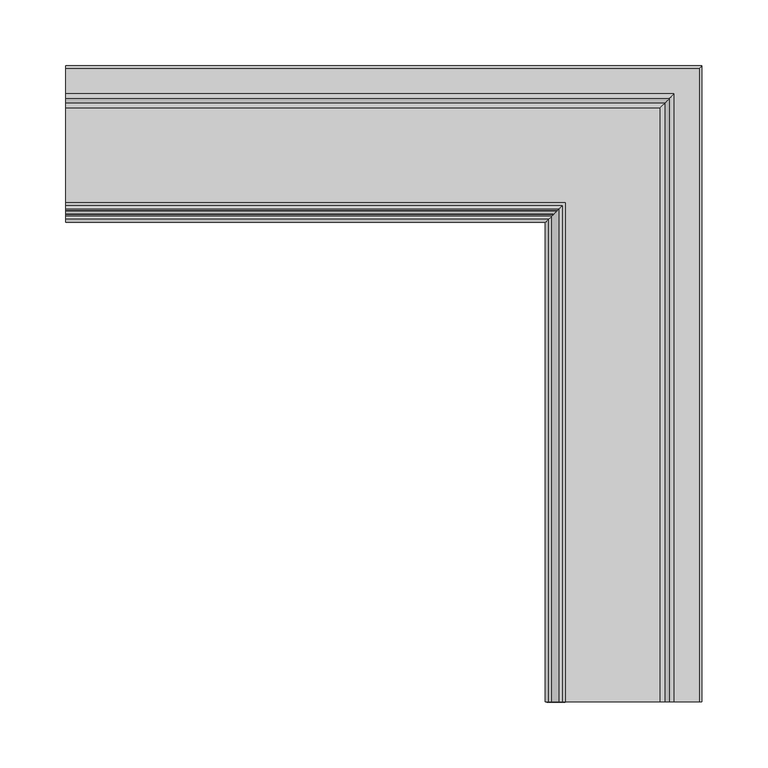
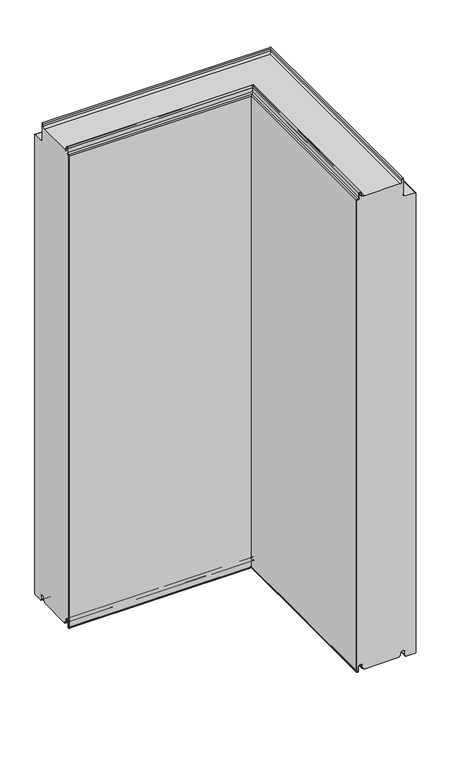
"""IFC4 building model written with IfcOpenShell, lengths in millimetres: plate geometry, Угловой модуль Fronttop : Угловой модуль Fronttop 120/1000."""

from ifc_helpers import new_model, si_unit, frame, origin, place, context, project, spatial, polyline, circle_curve, ellipse_curve, source, transform, mapped, element, save
from ifc_brep_helpers import plane_surface, cylinder_surface, revolved_surface, advanced_brep


def plate_0bb42676(model_context):
    return source(origin(), model_context, "Body", "AdvancedBrep", [
        advanced_brep(
        [(-234.5, 15.0, 3.0), (-234.5, 13.0, 3.0), (-234.5, 12.0, 4.0), (-234.5, 12.0, 8.0), (-234.5, 3.0, 8.0), (-234.5, 3.0, -0.5), (-234.5, 1.0, -0.5), (-234.5, 1.0, 995.0278643), (-234.5, 2.1111111, 996.0216723), (-234.5, 6.0, 999.5), (-234.5, 6.0, 1008.0), (-234.5, 9.0, 1008.0), (-234.5, 9.0, 1004.0), (-234.5, 13.0, 1000.0), (-234.5, 87.0, 1000.0), (-234.5, 91.0, 1004.0), (-234.5, 91.0, 1008.0), (-234.5, 94.0, 1008.0), (-234.5, 94.0, 975.0), (-234.5, 98.0, 971.0), (-234.5, 117.0, 971.0), (-234.5, 119.0, 969.0), (-234.5, 119.0, 0.0), (-234.5, 117.0, -2.0), (-234.5, 99.0, -2.0), (-234.5, 97.0, 0.0), (-234.5, 97.0, 8.0), (-234.5, 88.0, 8.0), (-234.5, 88.0, 4.0), (-234.5, 87.0, 3.0), (-234.5, 85.0, 3.0), (-234.5, 85.0, 0.0), (-234.5, 15.0, 0.0), (145.0, 15.0, 0.0), (145.0, 15.0, 3.0), (215.0, 85.0, 0.0), (215.0, -364.5, 0.0), (145.0, -364.5, 0.0), (215.0, 85.0, 3.0), (217.0, 87.0, 3.0), (217.0, -364.5, 3.0), (215.0, -364.5, 3.0), (218.0, 88.0, 4.0), (218.0, 88.0, 8.0), (227.0, 97.0, 8.0), (227.0, 97.0, 0.0), (229.0, 99.0, -2.0), (247.0, 117.0, -2.0), (247.0, -364.5, -2.0), (229.0, -364.5, -2.0), (249.0, 119.0, 0.0), (249.0, 119.0, 969.0), (247.0, 117.0, 971.0), (228.0, 98.0, 971.0), (228.0, -364.5, 971.0), (247.0, -364.5, 971.0), (224.0, 94.0, 975.0), (224.0, 94.0, 1008.0), (221.0, 91.0, 1008.0), (221.0, 91.0, 1004.0), (217.0, 87.0, 1000.0), (143.0, 13.0, 1000.0), (143.0, -364.5, 1000.0), (217.0, -364.5, 1000.0), (139.0, 9.0, 1004.0), (139.0, 9.0, 1008.0), (136.0, 6.0, 1008.0), (136.0, 6.0, 999.5), (132.1111111, 2.1111111, 996.021672), (131.0, 1.0, 995.0278643), (131.0, 1.0, -0.5), (133.0, 3.0, -0.5), (133.0, 3.0, 8.0), (142.0, 12.0, 8.0), (142.0, 12.0, 4.0), (143.0, 13.0, 3.0), (145.0, -364.5, 3.0), (143.0, -364.5, 3.0), (218.0, -364.5, 4.0), (218.0, -364.5, 8.0), (227.0, -364.5, 8.0), (227.0, -364.5, 0.0), (249.0, -364.5, 0.0), (249.0, -364.5, 969.0), (224.0, -364.5, 975.0), (224.0, -364.5, 1008.0), (221.0, -364.5, 1008.0), (221.0, -364.5, 1004.0), (139.0, -364.5, 1004.0), (139.0, -364.5, 1008.0), (136.0, -364.5, 1008.0), (136.0, -364.5, 999.5), (132.1111111, -364.5, 996.021672), (131.0, -364.5, 995.0278643), (131.0, -364.5, -0.5), (133.0, -364.5, -0.5), (133.0, -364.5, 8.0), (142.0, -364.5, 8.0), (142.0, -364.5, 4.0)],
        [
            (0, 1),
            (1, 2, circle_curve(frame((-234.5, 13.0, 4.0), z_axis=(-1.0, 0.0, 0.0), x_axis=(0.0, -1.0, 0.0)), 1.0)),
            (2, 3),
            (3, 4, circle_curve(frame((-234.5, 7.5, 8.0), z_axis=(1.0, 0.0, 0.0), x_axis=(0.0, -1.0, 0.0)), 4.5)),
            (4, 5),
            (5, 6, circle_curve(frame((-234.5, 2.0, -0.5), z_axis=(-1.0, 0.0, 0.0), x_axis=(0.0, -1.0, 0.0)), 1.0)),
            (6, 7),
            (7, 8, circle_curve(frame((-234.5, 2.0, 995.0278643), z_axis=(-1.0, 0.0, 0.0), x_axis=(0.0, -1.0, 0.0)), 1.0)),
            (8, 9, circle_curve(frame((-234.5, 2.5, 999.5), z_axis=(1.0, 0.0, 0.0), x_axis=(0.0, -1.0, 0.0)), 3.5)),
            (9, 10),
            (10, 11, circle_curve(frame((-234.5, 7.5, 1008.0), z_axis=(-1.0, 0.0, 0.0), x_axis=(0.0, -1.0, 0.0)), 1.5)),
            (11, 12),
            (12, 13, circle_curve(frame((-234.5, 13.0, 1004.0), z_axis=(1.0, 0.0, 0.0), x_axis=(0.0, -1.0, 0.0)), 4.0)),
            (13, 14),
            (14, 15, circle_curve(frame((-234.5, 87.0, 1004.0), z_axis=(1.0, 0.0, 0.0), x_axis=(0.0, -1.0, 0.0)), 4.0)),
            (15, 16),
            (16, 17, circle_curve(frame((-234.5, 92.5, 1008.0), z_axis=(-1.0, 0.0, 0.0), x_axis=(0.0, -1.0, 0.0)), 1.5)),
            (17, 18),
            (18, 19, circle_curve(frame((-234.5, 98.0, 975.0), z_axis=(1.0, 0.0, 0.0), x_axis=(0.0, -1.0, 0.0)), 4.0)),
            (19, 20),
            (20, 21, circle_curve(frame((-234.5, 117.0, 969.0), z_axis=(-1.0, 0.0, 0.0), x_axis=(0.0, -1.0, 0.0)), 2.0)),
            (21, 22),
            (22, 23, circle_curve(frame((-234.5, 117.0, 0.0), z_axis=(-1.0, 0.0, 0.0), x_axis=(0.0, -1.0, 0.0)), 2.0)),
            (23, 24),
            (24, 25, circle_curve(frame((-234.5, 99.0, 0.0), z_axis=(-1.0, 0.0, 0.0), x_axis=(0.0, -1.0, 0.0)), 2.0)),
            (25, 26),
            (26, 27, circle_curve(frame((-234.5, 92.5, 8.0), z_axis=(1.0, 0.0, 0.0), x_axis=(0.0, -1.0, 0.0)), 4.5)),
            (27, 28),
            (28, 29, circle_curve(frame((-234.5, 87.0, 4.0), z_axis=(-1.0, 0.0, 0.0), x_axis=(0.0, -1.0, 0.0)), 1.0)),
            (29, 30),
            (30, 31),
            (31, 32),
            (32, 0),
            (32, 33),
            (33, 34),
            (34, 0),
            (31, 35),
            (35, 36),
            (36, 37),
            (37, 33),
            (30, 38),
            (38, 35),
            (29, 39),
            (39, 40),
            (40, 41),
            (41, 38),
            (28, 42),
            (42, 39, ellipse_curve(frame((217.0, 87.0, 4.0), z_axis=(-0.7071067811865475, 0.7071067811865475, 0.0), x_axis=(-0.7071067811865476, -0.7071067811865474, 0.0)), 1.4142136, 1.0)),
            (27, 43),
            (43, 42),
            (26, 44),
            (44, 43, ellipse_curve(frame((222.5, 92.5, 8.0), z_axis=(0.7071067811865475, -0.7071067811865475, 0.0), x_axis=(0.7071067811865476, 0.7071067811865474, 0.0)), 6.363961, 4.5)),
            (25, 45),
            (45, 44),
            (24, 46),
            (46, 45, ellipse_curve(frame((229.0, 99.0, 0.0), z_axis=(-0.7071067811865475, 0.7071067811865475, 0.0), x_axis=(-0.7071067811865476, -0.7071067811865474, 0.0)), 2.8284271, 2.0)),
            (23, 47),
            (47, 48),
            (48, 49),
            (49, 46),
            (22, 50),
            (50, 47, ellipse_curve(frame((247.0, 117.0, 0.0), z_axis=(-0.7071067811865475, 0.7071067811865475, 0.0), x_axis=(-0.7071067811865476, -0.7071067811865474, 0.0)), 2.8284271, 2.0)),
            (21, 51),
            (51, 50),
            (20, 52),
            (52, 51, ellipse_curve(frame((247.0, 117.0, 969.0), z_axis=(-0.7071067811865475, 0.7071067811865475, 0.0), x_axis=(-0.7071067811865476, -0.7071067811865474, 0.0)), 2.8284271, 2.0)),
            (19, 53),
            (53, 54),
            (54, 55),
            (55, 52),
            (18, 56),
            (56, 53, ellipse_curve(frame((228.0, 98.0, 975.0), z_axis=(0.7071067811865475, -0.7071067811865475, 0.0), x_axis=(0.7071067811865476, 0.7071067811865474, 0.0)), 5.6568542, 4.0)),
            (17, 57),
            (57, 56),
            (16, 58),
            (58, 57, ellipse_curve(frame((222.5, 92.5, 1008.0), z_axis=(-0.7071067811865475, 0.7071067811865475, 0.0), x_axis=(-0.7071067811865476, -0.7071067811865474, 0.0)), 2.1213203, 1.5)),
            (15, 59),
            (59, 58),
            (14, 60),
            (60, 59, ellipse_curve(frame((217.0, 87.0, 1004.0), z_axis=(0.7071067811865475, -0.7071067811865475, 0.0), x_axis=(0.7071067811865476, 0.7071067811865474, 0.0)), 5.6568542, 4.0)),
            (13, 61),
            (61, 62),
            (62, 63),
            (63, 60),
            (12, 64),
            (64, 61, ellipse_curve(frame((143.0, 13.0, 1004.0), z_axis=(0.7071067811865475, -0.7071067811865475, 0.0), x_axis=(0.7071067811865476, 0.7071067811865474, 0.0)), 5.6568542, 4.0)),
            (11, 65),
            (65, 64),
            (10, 66),
            (66, 65, ellipse_curve(frame((137.5, 7.5, 1008.0), z_axis=(-0.7071067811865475, 0.7071067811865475, 0.0), x_axis=(-0.7071067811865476, -0.7071067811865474, 0.0)), 2.1213204, 1.5)),
            (9, 67),
            (67, 66),
            (8, 68),
            (68, 67, ellipse_curve(frame((132.5, 2.5, 999.5), z_axis=(0.7071067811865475, -0.7071067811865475, 0.0), x_axis=(0.7071067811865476, 0.7071067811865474, 0.0)), 4.9497475, 3.5)),
            (7, 69),
            (69, 68, ellipse_curve(frame((132.0, 2.0, 995.0278643), z_axis=(-0.7071067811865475, 0.7071067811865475, 0.0), x_axis=(-0.7071067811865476, -0.7071067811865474, 0.0)), 1.4142136, 1.0)),
            (6, 70),
            (70, 69),
            (5, 71),
            (71, 70, ellipse_curve(frame((132.0, 2.0, -0.5), z_axis=(-0.7071067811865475, 0.7071067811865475, 0.0), x_axis=(-0.7071067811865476, -0.7071067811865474, 0.0)), 1.4142136, 1.0)),
            (4, 72),
            (72, 71),
            (3, 73),
            (73, 72, ellipse_curve(frame((137.5, 7.5, 8.0), z_axis=(0.7071067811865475, -0.7071067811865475, 0.0), x_axis=(0.7071067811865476, 0.7071067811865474, 0.0)), 6.363961, 4.5)),
            (2, 74),
            (74, 73),
            (1, 75),
            (75, 74, ellipse_curve(frame((143.0, 13.0, 4.0), z_axis=(-0.7071067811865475, 0.7071067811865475, 0.0), x_axis=(-0.7071067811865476, -0.7071067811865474, 0.0)), 1.4142136, 1.0)),
            (34, 76),
            (76, 77),
            (77, 75),
            (76, 37),
            (36, 41),
            (40, 78, circle_curve(frame((217.0, -364.5, 4.0), z_axis=(0.0, -1.0, 0.0), x_axis=(-1.0, 0.0, 0.0)), 1.0)),
            (78, 79),
            (79, 80, circle_curve(frame((222.5, -364.5, 8.0), z_axis=(0.0, 1.0, 0.0), x_axis=(-1.0, 0.0, 0.0)), 4.5)),
            (80, 81),
            (81, 49, circle_curve(frame((229.0, -364.5, 0.0), z_axis=(0.0, -1.0, 0.0), x_axis=(-1.0, 0.0, 0.0)), 2.0)),
            (48, 82, circle_curve(frame((247.0, -364.5, 0.0), z_axis=(0.0, -1.0, 0.0), x_axis=(-1.0, 0.0, 0.0)), 2.0)),
            (82, 83),
            (83, 55, circle_curve(frame((247.0, -364.5, 969.0), z_axis=(0.0, -1.0, 0.0), x_axis=(-1.0, 0.0, 0.0)), 2.0)),
            (54, 84, circle_curve(frame((228.0, -364.5, 975.0), z_axis=(0.0, 1.0, 0.0), x_axis=(-1.0, 0.0, 0.0)), 4.0)),
            (84, 85),
            (85, 86, circle_curve(frame((222.5, -364.5, 1008.0), z_axis=(0.0, -1.0, 0.0), x_axis=(-1.0, 0.0, 0.0)), 1.5)),
            (86, 87),
            (87, 63, circle_curve(frame((217.0, -364.5, 1004.0), z_axis=(0.0, 1.0, 0.0), x_axis=(-1.0, 0.0, 0.0)), 4.0)),
            (62, 88, circle_curve(frame((143.0, -364.5, 1004.0), z_axis=(0.0, 1.0, 0.0), x_axis=(-1.0, 0.0, 0.0)), 4.0)),
            (88, 89),
            (89, 90, circle_curve(frame((137.5, -364.5, 1008.0), z_axis=(0.0, -1.0, 0.0), x_axis=(-1.0, 0.0, 0.0)), 1.5)),
            (90, 91),
            (91, 92, circle_curve(frame((132.5, -364.5, 999.5), z_axis=(0.0, 1.0, 0.0), x_axis=(-1.0, 0.0, 0.0)), 3.5)),
            (92, 93, circle_curve(frame((132.0, -364.5, 995.0278643), z_axis=(0.0, -1.0, 0.0), x_axis=(-1.0, 0.0, 0.0)), 1.0)),
            (93, 94),
            (94, 95, circle_curve(frame((132.0, -364.5, -0.5), z_axis=(0.0, -1.0, 0.0), x_axis=(-1.0, 0.0, 0.0)), 1.0)),
            (95, 96),
            (96, 97, circle_curve(frame((137.5, -364.5, 8.0), z_axis=(0.0, 1.0, 0.0), x_axis=(-1.0, 0.0, 0.0)), 4.5)),
            (97, 98),
            (98, 77, circle_curve(frame((143.0, -364.5, 4.0), z_axis=(0.0, -1.0, 0.0), x_axis=(-1.0, 0.0, 0.0)), 1.0)),
            (42, 78),
            (43, 79),
            (44, 80),
            (45, 81),
            (50, 82),
            (51, 83),
            (56, 84),
            (57, 85),
            (58, 86),
            (59, 87),
            (64, 88),
            (65, 89),
            (66, 90),
            (67, 91),
            (68, 92),
            (69, 93),
            (70, 94),
            (71, 95),
            (72, 96),
            (73, 97),
            (74, 98),
        ],
        [
            plane_surface(frame((-234.5, 0.0, 0.0), z_axis=(-1.0, 0.0, 0.0), x_axis=(0.0, 0.0, 1.0))),
            plane_surface(frame((-234.5, 15.0, 0.0), z_axis=(0.0, -1.0, 0.0), x_axis=(1.0, 0.0, 0.0))),
            plane_surface(frame((-234.5, 85.0, 0.0), z_axis=(0.0, 0.0, -1.0), x_axis=(1.0, 0.0, 0.0))),
            plane_surface(frame((-234.5, 85.0, 3.0), z_axis=(0.0, 1.0, 0.0), x_axis=(1.0, 0.0, 0.0))),
            plane_surface(frame((-234.5, 87.0, 3.0), z_axis=(0.0, 0.0, -1.0), x_axis=(1.0, 0.0, 0.0))),
            cylinder_surface(frame((-234.5, 87.0, 4.0), z_axis=(-1.0, 0.0, 0.0), x_axis=(0.0, -1.0, 0.0)), 1.0),
            plane_surface(frame((-234.5, 88.0, 8.0), z_axis=(0.0, 1.0, 0.0), x_axis=(1.0, 0.0, 0.0))),
            revolved_surface(polyline([(227.0, 88.0, 8.0), (-234.5, 88.0, 8.0)]), (-234.5, 92.5, 8.0), (1.0, 0.0, 0.0)),
            plane_surface(frame((-234.5, 97.0, 0.0), z_axis=(0.0, -1.0, 0.0), x_axis=(1.0, 0.0, 0.0))),
            cylinder_surface(frame((-234.5, 99.0, 0.0), z_axis=(-1.0, 0.0, 0.0), x_axis=(0.0, -1.0, 0.0)), 2.0),
            plane_surface(frame((-234.5, 117.0, -2.0), z_axis=(0.0, 0.0, -1.0), x_axis=(1.0, 0.0, 0.0))),
            cylinder_surface(frame((-234.5, 117.0, 0.0), z_axis=(-1.0, 0.0, 0.0), x_axis=(0.0, -1.0, 0.0)), 2.0),
            plane_surface(frame((-234.5, 119.0, 969.0), z_axis=(0.0, 1.0, 0.0), x_axis=(1.0, 0.0, 0.0))),
            cylinder_surface(frame((-234.5, 117.0, 969.0), z_axis=(-1.0, 0.0, 0.0), x_axis=(0.0, -1.0, 0.0)), 2.0),
            plane_surface(frame((-234.5, 98.0, 971.0), z_axis=(0.0, 0.0, 1.0), x_axis=(1.0, 0.0, 0.0))),
            revolved_surface(polyline([(231.9999999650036, 94.0, 975.0), (-234.5, 94.0, 975.0)]), (-234.5, 98.0, 975.0), (1.0, 0.0, 0.0)),
            plane_surface(frame((-234.5, 94.0, 1008.0), z_axis=(0.0, 1.0, 0.0), x_axis=(1.0, 0.0, 0.0))),
            cylinder_surface(frame((-234.5, 92.5, 1008.0), z_axis=(-1.0, 0.0, 0.0), x_axis=(0.0, -1.0, 0.0)), 1.5),
            plane_surface(frame((-234.5, 91.0, 1004.0), z_axis=(0.0, -1.0, 0.0), x_axis=(1.0, 0.0, 0.0))),
            revolved_surface(polyline([(221.0, 83.0, 1004.0), (-234.5, 83.0, 1004.0)]), (-234.5, 87.0, 1004.0), (1.0, 0.0, 0.0)),
            plane_surface(frame((-234.5, 13.0, 1000.0), z_axis=(0.0, 0.0, 1.0), x_axis=(1.0, 0.0, 0.0))),
            revolved_surface(polyline([(146.9999999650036, 9.0, 1004.0), (-234.5, 9.0, 1004.0)]), (-234.5, 13.0, 1004.0), (1.0, 0.0, 0.0)),
            plane_surface(frame((-234.5, 9.0, 1008.0), z_axis=(0.0, 1.0, 0.0), x_axis=(1.0, 0.0, 0.0))),
            cylinder_surface(frame((-234.5, 7.5, 1008.0), z_axis=(-1.0, 0.0, 0.0), x_axis=(0.0, -1.0, 0.0)), 1.5),
            plane_surface(frame((-234.5, 6.0, 999.5), z_axis=(0.0, -1.0, 0.0), x_axis=(1.0, 0.0, 0.0))),
            revolved_surface(polyline([(136.00000002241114, -1.0, 999.5), (-234.5, -1.0, 999.5)]), (-234.5, 2.5, 999.5), (1.0, 0.0, 0.0)),
            cylinder_surface(frame((-234.5, 2.0, 995.0278643), z_axis=(-1.0, 0.0, 0.0), x_axis=(0.0, -1.0, 0.0)), 1.0),
            plane_surface(frame((-234.5, 1.0, -0.5), z_axis=(0.0, -1.0, 0.0), x_axis=(1.0, 0.0, 0.0))),
            cylinder_surface(frame((-234.5, 2.0, -0.5), z_axis=(-1.0, 0.0, 0.0), x_axis=(0.0, -1.0, 0.0)), 1.0),
            plane_surface(frame((-234.5, 3.0, 8.0), z_axis=(0.0, 1.0, 0.0), x_axis=(1.0, 0.0, 0.0))),
            revolved_surface(polyline([(142.0, 3.0, 8.0), (-234.5, 3.0, 8.0)]), (-234.5, 7.5, 8.0), (1.0, 0.0, 0.0)),
            plane_surface(frame((-234.5, 12.0, 4.0), z_axis=(0.0, -1.0, 0.0), x_axis=(1.0, 0.0, 0.0))),
            cylinder_surface(frame((-234.5, 13.0, 4.0), z_axis=(-1.0, 0.0, 0.0), x_axis=(0.0, -1.0, 0.0)), 1.0),
            plane_surface(frame((-234.5, 15.0, 3.0), z_axis=(0.0, 0.0, -1.0), x_axis=(1.0, 0.0, 0.0))),
            plane_surface(frame((130.0, -364.5, 0.0), z_axis=(0.0, -1.0, 0.0), x_axis=(0.0, 0.0, 1.0))),
            plane_surface(frame((145.0, 15.0, 0.0), z_axis=(-1.0, 0.0, 0.0), x_axis=(0.0, -1.0, 0.0))),
            plane_surface(frame((215.0, 85.0, 3.0), z_axis=(1.0, 0.0, 0.0), x_axis=(0.0, -1.0, 0.0))),
            cylinder_surface(frame((217.0, 0.0, 4.0), z_axis=(0.0, 1.0, 0.0), x_axis=(-1.0, 0.0, 0.0)), 1.0),
            plane_surface(frame((218.0, 88.0, 8.0), z_axis=(1.0, 0.0, 0.0), x_axis=(0.0, -1.0, 0.0))),
            revolved_surface(polyline([(218.0, -364.5, 8.0), (218.0, 97.0, 8.0)]), (222.5, 0.0, 8.0), (0.0, -1.0, 0.0)),
            plane_surface(frame((227.0, 97.0, 0.0), z_axis=(-1.0, 0.0, 0.0), x_axis=(0.0, -1.0, 0.0))),
            cylinder_surface(frame((229.0, 0.0, 0.0), z_axis=(0.0, 1.0, 0.0), x_axis=(-1.0, 0.0, 0.0)), 2.0),
            cylinder_surface(frame((247.0, 0.0, 0.0), z_axis=(0.0, 1.0, 0.0), x_axis=(-1.0, 0.0, 0.0)), 2.0),
            plane_surface(frame((249.0, 119.0, 969.0), z_axis=(1.0, 0.0, 0.0), x_axis=(0.0, -1.0, 0.0))),
            cylinder_surface(frame((247.0, 0.0, 969.0), z_axis=(0.0, 1.0, 0.0), x_axis=(-1.0, 0.0, 0.0)), 2.0),
            revolved_surface(polyline([(224.0, -364.5, 975.0), (224.0, 101.9999999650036, 975.0)]), (228.0, 0.0, 975.0), (0.0, -1.0, 0.0)),
            plane_surface(frame((224.0, 94.0, 1008.0), z_axis=(1.0, 0.0, 0.0), x_axis=(0.0, -1.0, 0.0))),
            cylinder_surface(frame((222.5, 0.0, 1008.0), z_axis=(0.0, 1.0, 0.0), x_axis=(-1.0, 0.0, 0.0)), 1.5),
            plane_surface(frame((221.0, 91.0, 1004.0), z_axis=(-1.0, 0.0, 0.0), x_axis=(0.0, -1.0, 0.0))),
            revolved_surface(polyline([(213.0, -364.5, 1004.0), (213.0, 91.0, 1004.0)]), (217.0, 0.0, 1004.0), (0.0, -1.0, 0.0)),
            revolved_surface(polyline([(139.0, -364.5, 1004.0), (139.0, 16.999999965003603, 1004.0)]), (143.0, 0.0, 1004.0), (0.0, -1.0, 0.0)),
            plane_surface(frame((139.0, 9.0, 1008.0), z_axis=(1.0, 0.0, 0.0), x_axis=(0.0, -1.0, 0.0))),
            cylinder_surface(frame((137.5, 0.0, 1008.0), z_axis=(0.0, 1.0, 0.0), x_axis=(-1.0, 0.0, 0.0)), 1.5),
            plane_surface(frame((136.0, 6.0, 999.5), z_axis=(-1.0, 0.0, 0.0), x_axis=(0.0, -1.0, 0.0))),
            revolved_surface(polyline([(129.0, -364.5, 999.5), (129.0, 6.000000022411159, 999.5)]), (132.5, 0.0, 999.5), (0.0, -1.0, 0.0)),
            cylinder_surface(frame((132.0, 0.0, 995.0278643), z_axis=(0.0, 1.0, 0.0), x_axis=(-1.0, 0.0, 0.0)), 1.0),
            plane_surface(frame((131.0, 1.0, -0.5), z_axis=(-1.0, 0.0, 0.0), x_axis=(0.0, -1.0, 0.0))),
            cylinder_surface(frame((132.0, 0.0, -0.5), z_axis=(0.0, 1.0, 0.0), x_axis=(-1.0, 0.0, 0.0)), 1.0),
            plane_surface(frame((133.0, 3.0, 8.0), z_axis=(1.0, 0.0, 0.0), x_axis=(0.0, -1.0, 0.0))),
            revolved_surface(polyline([(133.0, -364.5, 8.0), (133.0, 12.0, 8.0)]), (137.5, 0.0, 8.0), (0.0, -1.0, 0.0)),
            plane_surface(frame((142.0, 12.0, 4.0), z_axis=(-1.0, 0.0, 0.0), x_axis=(0.0, -1.0, 0.0))),
            cylinder_surface(frame((143.0, 0.0, 4.0), z_axis=(0.0, 1.0, 0.0), x_axis=(-1.0, 0.0, 0.0)), 1.0),
        ],
        [
            (0, [[1, 2, 3, 4, 5, 6, 7, 8, 9, 10, 11, 12, 13, 14, 15, 16, 17, 18, 19, 20, 21, 22, 23, 24, 25, 26, 27, 28, 29, 30, 31, 32, 33]]),
            (1, [[-33, 34, 35, 36]]),
            (2, [[-32, 37, 38, 39, 40, -34]]),
            (3, [[-31, 41, 42, -37]]),
            (4, [[-30, 43, 44, 45, 46, -41]]),
            (5, [[-29, 47, 48, -43]]),
            (6, [[-28, 49, 50, -47]]),
            (7, [[-27, 51, 52, -49]]),
            (8, [[-26, 53, 54, -51]]),
            (9, [[-25, 55, 56, -53]]),
            (10, [[-24, 57, 58, 59, 60, -55]]),
            (11, [[-23, 61, 62, -57]]),
            (12, [[-22, 63, 64, -61]]),
            (13, [[-21, 65, 66, -63]]),
            (14, [[-20, 67, 68, 69, 70, -65]]),
            (15, [[-19, 71, 72, -67]]),
            (16, [[-18, 73, 74, -71]]),
            (17, [[-17, 75, 76, -73]]),
            (18, [[-16, 77, 78, -75]]),
            (19, [[-15, 79, 80, -77]]),
            (20, [[-14, 81, 82, 83, 84, -79]]),
            (21, [[-13, 85, 86, -81]]),
            (22, [[-12, 87, 88, -85]]),
            (23, [[-11, 89, 90, -87]]),
            (24, [[-10, 91, 92, -89]]),
            (25, [[-9, 93, 94, -91]]),
            (26, [[-8, 95, 96, -93]]),
            (27, [[-7, 97, 98, -95]]),
            (28, [[-6, 99, 100, -97]]),
            (29, [[-5, 101, 102, -99]]),
            (30, [[-4, 103, 104, -101]]),
            (31, [[-3, 105, 106, -103]]),
            (32, [[-2, 107, 108, -105]]),
            (33, [[-1, -36, 109, 110, 111, -107]]),
            (34, [[112, -39, 113, -45, 114, 115, 116, 117, 118, -59, 119, 120, 121, -69, 122, 123, 124, 125, 126, -83, 127, 128, 129, 130, 131, 132, 133, 134, 135, 136, 137, 138, -110]]),
            (35, [[-35, -40, -112, -109]]),
            (36, [[-42, -46, -113, -38]]),
            (37, [[-48, 139, -114, -44]]),
            (38, [[-50, 140, -115, -139]]),
            (39, [[-52, 141, -116, -140]]),
            (40, [[-54, 142, -117, -141]]),
            (41, [[-56, -60, -118, -142]]),
            (42, [[-62, 143, -119, -58]]),
            (43, [[-64, 144, -120, -143]]),
            (44, [[-66, -70, -121, -144]]),
            (45, [[-72, 145, -122, -68]]),
            (46, [[-74, 146, -123, -145]]),
            (47, [[-76, 147, -124, -146]]),
            (48, [[-78, 148, -125, -147]]),
            (49, [[-80, -84, -126, -148]]),
            (50, [[-86, 149, -127, -82]]),
            (51, [[-88, 150, -128, -149]]),
            (52, [[-90, 151, -129, -150]]),
            (53, [[-92, 152, -130, -151]]),
            (54, [[-94, 153, -131, -152]]),
            (55, [[-96, 154, -132, -153]]),
            (56, [[-98, 155, -133, -154]]),
            (57, [[-100, 156, -134, -155]]),
            (58, [[-102, 157, -135, -156]]),
            (59, [[-104, 158, -136, -157]]),
            (60, [[-106, 159, -137, -158]]),
            (61, [[-108, -111, -138, -159]]),
        ],
    ),
        advanced_brep(
        [(-234.5, 13.0, 1001.0), (-234.5, 15.0, 1001.0), (-234.5, 15.0, 1000.0), (-234.5, 13.0, 1000.0), (-234.5, 9.0, 1004.0), (-234.5, 9.0, 1008.0), (-234.5, 6.0, 1008.0), (-234.5, 6.0, 999.5), (-234.5, 2.1134897, 996.0214069), (-234.5, 1.0, 995.0), (-234.5, 1.0, -0.5), (-234.5, 3.0, -0.5), (-234.5, 3.0, 8.0), (-234.5, 12.0, 8.0), (-234.5, 12.0, 4.0), (-234.5, 13.0, 3.0), (-234.5, 15.0, 3.0), (-234.5, 15.0, 2.0), (-234.5, 13.0, 2.0), (-234.5, 11.0, 4.0), (-234.5, 11.0, 8.0), (-234.5, 4.0, 8.0), (-234.5, 4.0, -0.5), (-234.5, 0.0, -0.5), (-234.5, 0.0, 995.0), (-234.5, 2.220863, 996.9877675), (-234.5, 5.0, 999.5), (-234.5, 5.0, 1008.0), (-234.5, 10.0, 1008.0), (-234.5, 10.0, 1004.0), (143.0, 13.0, 1001.0), (143.0, -364.5, 1001.0), (145.0, -364.5, 1001.0), (145.0, 15.0, 1001.0), (145.0, 15.0, 1000.0), (145.0, -364.5, 1000.0), (143.0, -364.5, 1000.0), (143.0, 13.0, 1000.0), (139.0, 9.0, 1004.0), (139.0, 9.0, 1008.0), (136.0, 6.0, 1008.0), (136.0, 6.0, 999.5), (132.1134897, 2.1134897, 996.0214069), (131.0, 1.0, 995.0), (131.0, 1.0, -0.5), (133.0, 3.0, -0.5), (133.0, 3.0, 8.0), (142.0, 12.0, 8.0), (142.0, 12.0, 4.0), (143.0, 13.0, 3.0), (143.0, -364.5, 3.0), (145.0, -364.5, 3.0), (145.0, 15.0, 3.0), (145.0, 15.0, 2.0), (145.0, -364.5, 2.0), (143.0, -364.5, 2.0), (143.0, 13.0, 2.0), (141.0, 11.0, 4.0), (141.0, 11.0, 8.0), (134.0, 4.0, 8.0), (134.0, 4.0, -0.5), (130.0, 0.0, -0.5), (130.0, 0.0, 995.0), (132.220863, 2.220863, 996.9877675), (135.0, 5.0, 999.5), (135.0, 5.0, 1008.0), (140.0, 10.0, 1008.0), (140.0, 10.0, 1004.0), (140.0, -364.5, 1004.0), (140.0, -364.5, 1008.0), (135.0, -364.5, 1008.0), (135.0, -364.5, 999.5), (132.2239212, -364.5, 997.0152907), (130.0, -364.5, 995.0), (130.0, -364.5, -0.5), (134.0, -364.5, -0.5), (134.0, -364.5, 8.0), (141.0, -364.5, 8.0), (141.0, -364.5, 4.0), (142.0, -364.5, 4.0), (142.0, -364.5, 8.0), (133.0, -364.5, 8.0), (133.0, -364.5, -0.5), (131.0, -364.5, -0.5), (131.0, -364.5, 995.0), (132.1104315, -364.5, 995.9938837), (136.0, -364.5, 999.5), (136.0, -364.5, 1008.0), (139.0, -364.5, 1008.0), (139.0, -364.5, 1004.0)],
        [
            (0, 1),
            (1, 2),
            (2, 3),
            (3, 4, circle_curve(frame((-234.5, 13.0, 1004.0), z_axis=(-1.0, 0.0, 0.0), x_axis=(0.0, -1.0, 0.0)), 4.0)),
            (4, 5),
            (5, 6, circle_curve(frame((-234.5, 7.5, 1008.0), z_axis=(1.0, 0.0, 0.0), x_axis=(0.0, -1.0, 0.0)), 1.5)),
            (6, 7),
            (7, 8, circle_curve(frame((-234.5, 2.5, 999.5), z_axis=(-1.0, 0.0, 0.0), x_axis=(0.0, -1.0, 0.0)), 3.5)),
            (8, 9, circle_curve(frame((-234.5, 2.0, 995.0), z_axis=(1.0, 0.0, 0.0), x_axis=(0.0, -1.0, 0.0)), 1.0)),
            (9, 10),
            (10, 11, circle_curve(frame((-234.5, 2.0, -0.5), z_axis=(1.0, 0.0, 0.0), x_axis=(0.0, -1.0, 0.0)), 1.0)),
            (11, 12),
            (12, 13, circle_curve(frame((-234.5, 7.5, 8.0), z_axis=(-1.0, 0.0, 0.0), x_axis=(0.0, -1.0, 0.0)), 4.5)),
            (13, 14),
            (14, 15, circle_curve(frame((-234.5, 13.0, 4.0), z_axis=(1.0, 0.0, 0.0), x_axis=(0.0, -1.0, 0.0)), 1.0)),
            (15, 16),
            (16, 17),
            (17, 18),
            (18, 19, circle_curve(frame((-234.5, 13.0, 4.0), z_axis=(-1.0, 0.0, 0.0), x_axis=(0.0, -1.0, 0.0)), 2.0)),
            (19, 20),
            (20, 21, circle_curve(frame((-234.5, 7.5, 8.0), z_axis=(1.0, 0.0, 0.0), x_axis=(0.0, -1.0, 0.0)), 3.5)),
            (21, 22),
            (22, 23, circle_curve(frame((-234.5, 2.0, -0.5), z_axis=(-1.0, 0.0, 0.0), x_axis=(0.0, -1.0, 0.0)), 2.0)),
            (23, 24),
            (24, 25, circle_curve(frame((-234.5, 2.0, 995.0), z_axis=(-1.0, 0.0, 0.0), x_axis=(0.0, -1.0, 0.0)), 2.0)),
            (25, 26, circle_curve(frame((-234.5, 2.5, 999.5), z_axis=(1.0, 0.0, 0.0), x_axis=(0.0, -1.0, 0.0)), 2.5)),
            (26, 27),
            (27, 28, circle_curve(frame((-234.5, 7.5, 1008.0), z_axis=(-1.0, 0.0, 0.0), x_axis=(0.0, -1.0, 0.0)), 2.5)),
            (28, 29),
            (29, 0, circle_curve(frame((-234.5, 13.0, 1004.0), z_axis=(1.0, 0.0, 0.0), x_axis=(0.0, -1.0, 0.0)), 3.0)),
            (0, 30),
            (30, 31),
            (31, 32),
            (32, 33),
            (33, 1),
            (33, 34),
            (34, 2),
            (34, 35),
            (35, 36),
            (36, 37),
            (37, 3),
            (37, 38, ellipse_curve(frame((143.0, 13.0, 1004.0), z_axis=(-0.7071067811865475, 0.7071067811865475, 0.0), x_axis=(-0.7071067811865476, -0.7071067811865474, 0.0)), 5.6568542, 4.0)),
            (38, 4),
            (38, 39),
            (39, 5),
            (39, 40, ellipse_curve(frame((137.5, 7.5, 1008.0), z_axis=(0.7071067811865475, -0.7071067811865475, 0.0), x_axis=(0.7071067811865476, 0.7071067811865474, 0.0)), 2.1213204, 1.5)),
            (40, 6),
            (40, 41),
            (41, 7),
            (41, 42, ellipse_curve(frame((132.5, 2.5, 999.5), z_axis=(-0.7071067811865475, 0.7071067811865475, 0.0), x_axis=(-0.7071067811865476, -0.7071067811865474, 0.0)), 4.9497475, 3.5)),
            (42, 8),
            (42, 43, ellipse_curve(frame((132.0, 2.0, 995.0), z_axis=(0.7071067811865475, -0.7071067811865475, 0.0), x_axis=(0.7071067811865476, 0.7071067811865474, 0.0)), 1.4142136, 1.0)),
            (43, 9),
            (43, 44),
            (44, 10),
            (44, 45, ellipse_curve(frame((132.0, 2.0, -0.5), z_axis=(0.7071067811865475, -0.7071067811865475, 0.0), x_axis=(0.7071067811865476, 0.7071067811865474, 0.0)), 1.4142136, 1.0)),
            (45, 11),
            (45, 46),
            (46, 12),
            (46, 47, ellipse_curve(frame((137.5, 7.5, 8.0), z_axis=(-0.7071067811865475, 0.7071067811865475, 0.0), x_axis=(-0.7071067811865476, -0.7071067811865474, 0.0)), 6.363961, 4.5)),
            (47, 13),
            (47, 48),
            (48, 14),
            (48, 49, ellipse_curve(frame((143.0, 13.0, 4.0), z_axis=(0.7071067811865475, -0.7071067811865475, 0.0), x_axis=(0.7071067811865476, 0.7071067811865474, 0.0)), 1.4142136, 1.0)),
            (49, 15),
            (49, 50),
            (50, 51),
            (51, 52),
            (52, 16),
            (52, 53),
            (53, 17),
            (53, 54),
            (54, 55),
            (55, 56),
            (56, 18),
            (56, 57, ellipse_curve(frame((143.0, 13.0, 4.0), z_axis=(-0.7071067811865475, 0.7071067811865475, 0.0), x_axis=(-0.7071067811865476, -0.7071067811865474, 0.0)), 2.8284271, 2.0)),
            (57, 19),
            (57, 58),
            (58, 20),
            (58, 59, ellipse_curve(frame((137.5, 7.5, 8.0), z_axis=(0.7071067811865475, -0.7071067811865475, 0.0), x_axis=(0.7071067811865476, 0.7071067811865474, 0.0)), 4.9497475, 3.5)),
            (59, 21),
            (59, 60),
            (60, 22),
            (60, 61, ellipse_curve(frame((132.0, 2.0, -0.5), z_axis=(-0.7071067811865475, 0.7071067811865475, 0.0), x_axis=(-0.7071067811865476, -0.7071067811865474, 0.0)), 2.8284271, 2.0)),
            (61, 23),
            (61, 62),
            (62, 24),
            (62, 63, ellipse_curve(frame((132.0, 2.0, 995.0), z_axis=(-0.7071067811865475, 0.7071067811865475, 0.0), x_axis=(-0.7071067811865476, -0.7071067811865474, 0.0)), 2.8284271, 2.0)),
            (63, 25),
            (63, 64, ellipse_curve(frame((132.5, 2.5, 999.5), z_axis=(0.7071067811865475, -0.7071067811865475, 0.0), x_axis=(0.7071067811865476, 0.7071067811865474, 0.0)), 3.5355339, 2.5)),
            (64, 26),
            (64, 65),
            (65, 27),
            (65, 66, ellipse_curve(frame((137.5, 7.5, 1008.0), z_axis=(-0.7071067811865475, 0.7071067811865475, 0.0), x_axis=(-0.7071067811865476, -0.7071067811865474, 0.0)), 3.5355339, 2.5)),
            (66, 28),
            (66, 67),
            (67, 29),
            (67, 30, ellipse_curve(frame((143.0, 13.0, 1004.0), z_axis=(0.7071067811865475, -0.7071067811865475, 0.0), x_axis=(0.7071067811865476, 0.7071067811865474, 0.0)), 4.2426407, 3.0)),
            (31, 68, circle_curve(frame((143.0, -364.5, 1004.0), z_axis=(0.0, 1.0, 0.0), x_axis=(-1.0, 0.0, 0.0)), 3.0)),
            (68, 69),
            (69, 70, circle_curve(frame((137.5, -364.5, 1008.0), z_axis=(0.0, -1.0, 0.0), x_axis=(-1.0, 0.0, 0.0)), 2.5)),
            (70, 71),
            (71, 72, circle_curve(frame((132.5, -364.5, 999.5), z_axis=(0.0, 1.0, 0.0), x_axis=(-1.0, 0.0, 0.0)), 2.5)),
            (72, 73, circle_curve(frame((132.0, -364.5, 995.0), z_axis=(0.0, -1.0, 0.0), x_axis=(-1.0, 0.0, 0.0)), 2.0)),
            (73, 74),
            (74, 75, circle_curve(frame((132.0, -364.5, -0.5), z_axis=(0.0, -1.0, 0.0), x_axis=(-1.0, 0.0, 0.0)), 2.0)),
            (75, 76),
            (76, 77, circle_curve(frame((137.5, -364.5, 8.0), z_axis=(0.0, 1.0, 0.0), x_axis=(-1.0, 0.0, 0.0)), 3.5)),
            (77, 78),
            (78, 55, circle_curve(frame((143.0, -364.5, 4.0), z_axis=(0.0, -1.0, 0.0), x_axis=(-1.0, 0.0, 0.0)), 2.0)),
            (54, 51),
            (50, 79, circle_curve(frame((143.0, -364.5, 4.0), z_axis=(0.0, 1.0, 0.0), x_axis=(-1.0, 0.0, 0.0)), 1.0)),
            (79, 80),
            (80, 81, circle_curve(frame((137.5, -364.5, 8.0), z_axis=(0.0, -1.0, 0.0), x_axis=(-1.0, 0.0, 0.0)), 4.5)),
            (81, 82),
            (82, 83, circle_curve(frame((132.0, -364.5, -0.5), z_axis=(0.0, 1.0, 0.0), x_axis=(-1.0, 0.0, 0.0)), 1.0)),
            (83, 84),
            (84, 85, circle_curve(frame((132.0, -364.5, 995.0), z_axis=(0.0, 1.0, 0.0), x_axis=(-1.0, 0.0, 0.0)), 1.0)),
            (85, 86, circle_curve(frame((132.5, -364.5, 999.5), z_axis=(0.0, -1.0, 0.0), x_axis=(-1.0, 0.0, 0.0)), 3.5)),
            (86, 87),
            (87, 88, circle_curve(frame((137.5, -364.5, 1008.0), z_axis=(0.0, 1.0, 0.0), x_axis=(-1.0, 0.0, 0.0)), 1.5)),
            (88, 89),
            (89, 36, circle_curve(frame((143.0, -364.5, 1004.0), z_axis=(0.0, -1.0, 0.0), x_axis=(-1.0, 0.0, 0.0)), 4.0)),
            (35, 32),
            (89, 38),
            (88, 39),
            (87, 40),
            (86, 41),
            (85, 42),
            (84, 43),
            (83, 44),
            (82, 45),
            (81, 46),
            (80, 47),
            (79, 48),
            (78, 57),
            (77, 58),
            (76, 59),
            (75, 60),
            (74, 61),
            (73, 62),
            (72, 63),
            (71, 64),
            (70, 65),
            (69, 66),
            (68, 67),
        ],
        [
            plane_surface(frame((-234.5, 0.0, 0.0), z_axis=(-1.0, 0.0, 0.0), x_axis=(0.0, 0.0, 1.0))),
            plane_surface(frame((-234.5, 13.0, 1001.0), z_axis=(0.0, 0.0, 1.0), x_axis=(1.0, 0.0, 0.0))),
            plane_surface(frame((-234.5, 15.0, 1001.0), z_axis=(0.0, 1.0, 0.0), x_axis=(1.0, 0.0, 0.0))),
            plane_surface(frame((-234.5, 15.0, 1000.0), z_axis=(0.0, 0.0, -1.0), x_axis=(1.0, 0.0, 0.0))),
            cylinder_surface(frame((-234.5, 13.0, 1004.0), z_axis=(-1.0, 0.0, 0.0), x_axis=(0.0, -1.0, 0.0)), 4.0),
            plane_surface(frame((-234.5, 9.0, 1004.0), z_axis=(0.0, -1.0, 0.0), x_axis=(1.0, 0.0, 0.0))),
            revolved_surface(polyline([(139.00000003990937, 6.0, 1008.0), (-234.5, 6.0, 1008.0)]), (-234.5, 7.5, 1008.0), (1.0, 0.0, 0.0)),
            plane_surface(frame((-234.5, 6.0, 1008.0), z_axis=(0.0, 1.0, 0.0), x_axis=(1.0, 0.0, 0.0))),
            cylinder_surface(frame((-234.5, 2.5, 999.5), z_axis=(-1.0, 0.0, 0.0), x_axis=(0.0, -1.0, 0.0)), 3.5),
            revolved_surface(polyline([(133.00000002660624, 1.0, 995.0), (-234.5, 1.0, 995.0)]), (-234.5, 2.0, 995.0), (1.0, 0.0, 0.0)),
            plane_surface(frame((-234.5, 1.0, 995.0), z_axis=(0.0, 1.0, 0.0), x_axis=(1.0, 0.0, 0.0))),
            revolved_surface(polyline([(133.00000002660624, 1.0, -0.5), (-234.5, 1.0, -0.5)]), (-234.5, 2.0, -0.5), (1.0, 0.0, 0.0)),
            plane_surface(frame((-234.5, 3.0, -0.5), z_axis=(0.0, -1.0, 0.0), x_axis=(1.0, 0.0, 0.0))),
            cylinder_surface(frame((-234.5, 7.5, 8.0), z_axis=(-1.0, 0.0, 0.0), x_axis=(0.0, -1.0, 0.0)), 4.5),
            plane_surface(frame((-234.5, 12.0, 8.0), z_axis=(0.0, 1.0, 0.0), x_axis=(1.0, 0.0, 0.0))),
            revolved_surface(polyline([(144.00000002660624, 12.0, 4.0), (-234.5, 12.0, 4.0)]), (-234.5, 13.0, 4.0), (1.0, 0.0, 0.0)),
            plane_surface(frame((-234.5, 13.0, 3.0), z_axis=(0.0, 0.0, 1.0), x_axis=(1.0, 0.0, 0.0))),
            plane_surface(frame((-234.5, 15.0, 3.0), z_axis=(0.0, 1.0, 0.0), x_axis=(1.0, 0.0, 0.0))),
            plane_surface(frame((-234.5, 15.0, 2.0), z_axis=(0.0, 0.0, -1.0), x_axis=(1.0, 0.0, 0.0))),
            cylinder_surface(frame((-234.5, 13.0, 4.0), z_axis=(-1.0, 0.0, 0.0), x_axis=(0.0, -1.0, 0.0)), 2.0),
            plane_surface(frame((-234.5, 11.0, 4.0), z_axis=(0.0, -1.0, 0.0), x_axis=(1.0, 0.0, 0.0))),
            revolved_surface(polyline([(141.00000002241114, 4.0, 8.0), (-234.5, 4.0, 8.0)]), (-234.5, 7.5, 8.0), (1.0, 0.0, 0.0)),
            plane_surface(frame((-234.5, 4.0, 8.0), z_axis=(0.0, 1.0, 0.0), x_axis=(1.0, 0.0, 0.0))),
            cylinder_surface(frame((-234.5, 2.0, -0.5), z_axis=(-1.0, 0.0, 0.0), x_axis=(0.0, -1.0, 0.0)), 2.0),
            plane_surface(frame((-234.5, 0.0, -0.5), z_axis=(0.0, -1.0, 0.0), x_axis=(1.0, 0.0, 0.0))),
            cylinder_surface(frame((-234.5, 2.0, 995.0), z_axis=(-1.0, 0.0, 0.0), x_axis=(0.0, -1.0, 0.0)), 2.0),
            revolved_surface(polyline([(135.0, 0.0, 999.5), (-234.5, 0.0, 999.5)]), (-234.5, 2.5, 999.5), (1.0, 0.0, 0.0)),
            plane_surface(frame((-234.5, 5.0, 999.5), z_axis=(0.0, -1.0, 0.0), x_axis=(1.0, 0.0, 0.0))),
            cylinder_surface(frame((-234.5, 7.5, 1008.0), z_axis=(-1.0, 0.0, 0.0), x_axis=(0.0, -1.0, 0.0)), 2.5),
            plane_surface(frame((-234.5, 10.0, 1008.0), z_axis=(0.0, 1.0, 0.0), x_axis=(1.0, 0.0, 0.0))),
            revolved_surface(polyline([(146.00000000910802, 10.0, 1004.0), (-234.5, 10.0, 1004.0)]), (-234.5, 13.0, 1004.0), (1.0, 0.0, 0.0)),
            plane_surface(frame((130.0, -364.5, 0.0), z_axis=(0.0, -1.0, 0.0), x_axis=(0.0, 0.0, 1.0))),
            plane_surface(frame((145.0, 15.0, 1001.0), z_axis=(1.0, 0.0, 0.0), x_axis=(0.0, -1.0, 0.0))),
            cylinder_surface(frame((143.0, 0.0, 1004.0), z_axis=(0.0, 1.0, 0.0), x_axis=(-1.0, 0.0, 0.0)), 4.0),
            plane_surface(frame((139.0, 9.0, 1004.0), z_axis=(-1.0, 0.0, 0.0), x_axis=(0.0, -1.0, 0.0))),
            revolved_surface(polyline([(136.0, -364.5, 1008.0), (136.0, 9.00000003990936, 1008.0)]), (137.5, 0.0, 1008.0), (0.0, -1.0, 0.0)),
            plane_surface(frame((136.0, 6.0, 1008.0), z_axis=(1.0, 0.0, 0.0), x_axis=(0.0, -1.0, 0.0))),
            cylinder_surface(frame((132.5, 0.0, 999.5), z_axis=(0.0, 1.0, 0.0), x_axis=(-1.0, 0.0, 0.0)), 3.5),
            revolved_surface(polyline([(131.0, -364.5, 995.0), (131.0, 3.0000000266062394, 995.0)]), (132.0, 0.0, 995.0), (0.0, -1.0, 0.0)),
            plane_surface(frame((131.0, 1.0, 995.0), z_axis=(1.0, 0.0, 0.0), x_axis=(0.0, -1.0, 0.0))),
            revolved_surface(polyline([(131.0, -364.5, -0.5), (131.0, 3.0000000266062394, -0.5)]), (132.0, 0.0, -0.5), (0.0, -1.0, 0.0)),
            plane_surface(frame((133.0, 3.0, -0.5), z_axis=(-1.0, 0.0, 0.0), x_axis=(0.0, -1.0, 0.0))),
            cylinder_surface(frame((137.5, 0.0, 8.0), z_axis=(0.0, 1.0, 0.0), x_axis=(-1.0, 0.0, 0.0)), 4.5),
            plane_surface(frame((142.0, 12.0, 8.0), z_axis=(1.0, 0.0, 0.0), x_axis=(0.0, -1.0, 0.0))),
            revolved_surface(polyline([(142.0, -364.5, 4.0), (142.0, 14.000000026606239, 4.0)]), (143.0, 0.0, 4.0), (0.0, -1.0, 0.0)),
            plane_surface(frame((145.0, 15.0, 3.0), z_axis=(1.0, 0.0, 0.0), x_axis=(0.0, -1.0, 0.0))),
            cylinder_surface(frame((143.0, 0.0, 4.0), z_axis=(0.0, 1.0, 0.0), x_axis=(-1.0, 0.0, 0.0)), 2.0),
            plane_surface(frame((141.0, 11.0, 4.0), z_axis=(-1.0, 0.0, 0.0), x_axis=(0.0, -1.0, 0.0))),
            revolved_surface(polyline([(134.0, -364.5, 8.0), (134.0, 11.00000002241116, 8.0)]), (137.5, 0.0, 8.0), (0.0, -1.0, 0.0)),
            plane_surface(frame((134.0, 4.0, 8.0), z_axis=(1.0, 0.0, 0.0), x_axis=(0.0, -1.0, 0.0))),
            cylinder_surface(frame((132.0, 0.0, -0.5), z_axis=(0.0, 1.0, 0.0), x_axis=(-1.0, 0.0, 0.0)), 2.0),
            plane_surface(frame((130.0, 0.0, -0.5), z_axis=(-1.0, 0.0, 0.0), x_axis=(0.0, -1.0, 0.0))),
            cylinder_surface(frame((132.0, 0.0, 995.0), z_axis=(0.0, 1.0, 0.0), x_axis=(-1.0, 0.0, 0.0)), 2.0),
            revolved_surface(polyline([(130.0, -364.5, 999.5), (130.0, 5.0, 999.5)]), (132.5, 0.0, 999.5), (0.0, -1.0, 0.0)),
            plane_surface(frame((135.0, 5.0, 999.5), z_axis=(-1.0, 0.0, 0.0), x_axis=(0.0, -1.0, 0.0))),
            cylinder_surface(frame((137.5, 0.0, 1008.0), z_axis=(0.0, 1.0, 0.0), x_axis=(-1.0, 0.0, 0.0)), 2.5),
            plane_surface(frame((140.0, 10.0, 1008.0), z_axis=(1.0, 0.0, 0.0), x_axis=(0.0, -1.0, 0.0))),
            revolved_surface(polyline([(140.0, -364.5, 1004.0), (140.0, 16.00000000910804, 1004.0)]), (143.0, 0.0, 1004.0), (0.0, -1.0, 0.0)),
        ],
        [
            (0, [[1, 2, 3, 4, 5, 6, 7, 8, 9, 10, 11, 12, 13, 14, 15, 16, 17, 18, 19, 20, 21, 22, 23, 24, 25, 26, 27, 28, 29, 30]]),
            (1, [[-1, 31, 32, 33, 34, 35]]),
            (2, [[-2, -35, 36, 37]]),
            (3, [[-3, -37, 38, 39, 40, 41]]),
            (4, [[-4, -41, 42, 43]]),
            (5, [[-5, -43, 44, 45]]),
            (6, [[-6, -45, 46, 47]]),
            (7, [[-7, -47, 48, 49]]),
            (8, [[-8, -49, 50, 51]]),
            (9, [[-9, -51, 52, 53]]),
            (10, [[-10, -53, 54, 55]]),
            (11, [[-11, -55, 56, 57]]),
            (12, [[-12, -57, 58, 59]]),
            (13, [[-13, -59, 60, 61]]),
            (14, [[-14, -61, 62, 63]]),
            (15, [[-15, -63, 64, 65]]),
            (16, [[-16, -65, 66, 67, 68, 69]]),
            (17, [[-17, -69, 70, 71]]),
            (18, [[-18, -71, 72, 73, 74, 75]]),
            (19, [[-19, -75, 76, 77]]),
            (20, [[-20, -77, 78, 79]]),
            (21, [[-21, -79, 80, 81]]),
            (22, [[-22, -81, 82, 83]]),
            (23, [[-23, -83, 84, 85]]),
            (24, [[-24, -85, 86, 87]]),
            (25, [[-25, -87, 88, 89]]),
            (26, [[-26, -89, 90, 91]]),
            (27, [[-27, -91, 92, 93]]),
            (28, [[-28, -93, 94, 95]]),
            (29, [[-29, -95, 96, 97]]),
            (30, [[-30, -97, 98, -31]]),
            (31, [[99, 100, 101, 102, 103, 104, 105, 106, 107, 108, 109, 110, -73, 111, -67, 112, 113, 114, 115, 116, 117, 118, 119, 120, 121, 122, 123, -39, 124, -33]]),
            (32, [[-36, -34, -124, -38]]),
            (33, [[-42, -40, -123, 125]]),
            (34, [[-44, -125, -122, 126]]),
            (35, [[-46, -126, -121, 127]]),
            (36, [[-48, -127, -120, 128]]),
            (37, [[-50, -128, -119, 129]]),
            (38, [[-52, -129, -118, 130]]),
            (39, [[-54, -130, -117, 131]]),
            (40, [[-56, -131, -116, 132]]),
            (41, [[-58, -132, -115, 133]]),
            (42, [[-60, -133, -114, 134]]),
            (43, [[-62, -134, -113, 135]]),
            (44, [[-64, -135, -112, -66]]),
            (45, [[-70, -68, -111, -72]]),
            (46, [[-76, -74, -110, 136]]),
            (47, [[-78, -136, -109, 137]]),
            (48, [[-80, -137, -108, 138]]),
            (49, [[-82, -138, -107, 139]]),
            (50, [[-84, -139, -106, 140]]),
            (51, [[-86, -140, -105, 141]]),
            (52, [[-88, -141, -104, 142]]),
            (53, [[-90, -142, -103, 143]]),
            (54, [[-92, -143, -102, 144]]),
            (55, [[-94, -144, -101, 145]]),
            (56, [[-96, -145, -100, 146]]),
            (57, [[-98, -146, -99, -32]]),
        ],
    ),
    ])


if __name__ == "__main__":
    model = new_model("IFC4")
    model_context = context("Model", 3, world=origin())
    ifc_project = project(units=[si_unit("LENGTHUNIT", "METRE", prefix="MILLI")], contexts=[model_context])
    site = spatial("IfcSite", under=ifc_project)
    building = spatial("IfcBuilding", under=site)
    placement = place(None, origin())
    plate_shape = plate_0bb42676(model_context)
    element("IfcPlate", 1, ObjectType="Угловой модуль Fronttop : Угловой модуль Fronttop 120/1000", at=placement, inside=building, context=model_context, shape_type="MappedRepresentation", body=[
        mapped(plate_shape, transform((0.0, 0.0, 0.0), x_axis=(1.0, 0.0, 0.0), y_axis=(0.0, 1.0, 0.0), z_axis=(0.0, 0.0, 1.0))),
    ])
    save(model, "model.ifc")
